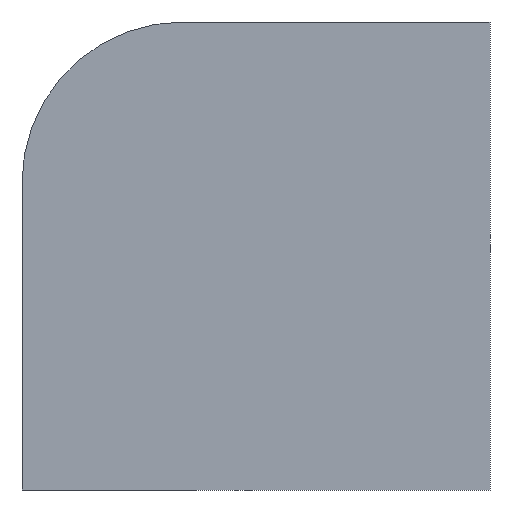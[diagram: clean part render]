
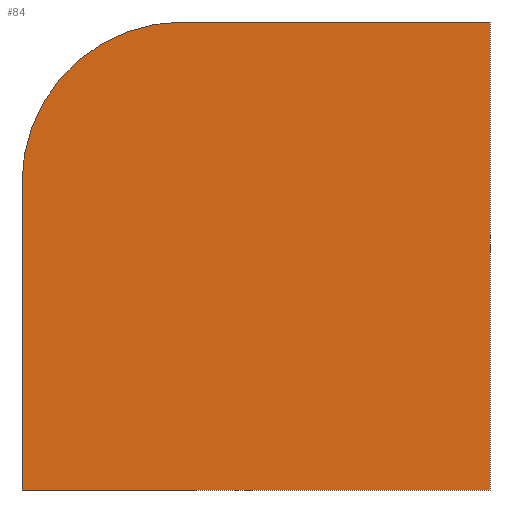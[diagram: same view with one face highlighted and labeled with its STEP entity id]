
A CAD part, front view. The second image highlights one B-rep face of the part: STEP entity #84.
In plain terms, the highlighted planar face has unit normal (0, -1, 0).
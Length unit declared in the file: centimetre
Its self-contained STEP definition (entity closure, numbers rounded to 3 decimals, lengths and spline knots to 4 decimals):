
#6 = ORIENTED_EDGE ( 'NONE', *, *, #404, .T. ) ;
#11 = CARTESIAN_POINT ( 'NONE',  ( 0., 0., 656.4885 ) ) ;
#18 = DIRECTION ( 'NONE',  ( 0., -1., 0. ) ) ;
#37 = CARTESIAN_POINT ( 'NONE',  ( 1000., 0., 1000. ) ) ;
#41 = DIRECTION ( 'NONE',  ( 0., 1., 0. ) ) ;
#44 = EDGE_CURVE ( 'NONE', #118, #259, #341, .T. ) ;
#49 = CARTESIAN_POINT ( 'NONE',  ( 0., 0., 0. ) ) ;
#50 = PLANE ( 'NONE',  #379 ) ;
#57 = VERTEX_POINT ( 'NONE', #78 ) ;
#61 = DIRECTION ( 'NONE',  ( 0., 0., -1. ) ) ;
#78 = CARTESIAN_POINT ( 'NONE',  ( 1000., 0., 0. ) ) ;
#83 = VECTOR ( 'NONE', #152, 100. ) ;
#84 = ADVANCED_FACE ( 'NONE', ( #150 ), #50, .F. ) ;
#90 = VERTEX_POINT ( 'NONE', #11 ) ;
#118 = VERTEX_POINT ( 'NONE', #430 ) ;
#137 = CARTESIAN_POINT ( 'NONE',  ( 0., 0., 1000. ) ) ;
#139 = EDGE_CURVE ( 'NONE', #259, #57, #218, .T. ) ;
#140 = VECTOR ( 'NONE', #231, 100. ) ;
#144 = VECTOR ( 'NONE', #275, 100. ) ;
#149 = LINE ( 'NONE', #366, #435 ) ;
#150 = FACE_OUTER_BOUND ( 'NONE', #251, .T. ) ;
#152 = DIRECTION ( 'NONE',  ( 0., 0., -1. ) ) ;
#157 = AXIS2_PLACEMENT_3D ( 'NONE', #315, #18, #283 ) ;
#158 = CARTESIAN_POINT ( 'NONE',  ( 1000., 0., 1000. ) ) ;
#161 = LINE ( 'NONE', #384, #140 ) ;
#175 = DIRECTION ( 'NONE',  ( 0., 0., 1. ) ) ;
#178 = CIRCLE ( 'NONE', #157, 343.5115 ) ;
#191 = ORIENTED_EDGE ( 'NONE', *, *, #44, .F. ) ;
#218 = LINE ( 'NONE', #158, #83 ) ;
#231 = DIRECTION ( 'NONE',  ( 1., 0., 0. ) ) ;
#241 = CARTESIAN_POINT ( 'NONE',  ( 0., 0., 1000. ) ) ;
#251 = EDGE_LOOP ( 'NONE', ( #191, #328, #6, #365, #324 ) ) ;
#259 = VERTEX_POINT ( 'NONE', #37 ) ;
#275 = DIRECTION ( 'NONE',  ( 1., 0., 0. ) ) ;
#283 = DIRECTION ( 'NONE',  ( 0., 0., 1. ) ) ;
#306 = VERTEX_POINT ( 'NONE', #49 ) ;
#315 = CARTESIAN_POINT ( 'NONE',  ( 343.5115, 0., 656.4885 ) ) ;
#324 = ORIENTED_EDGE ( 'NONE', *, *, #139, .F. ) ;
#328 = ORIENTED_EDGE ( 'NONE', *, *, #414, .T. ) ;
#341 = LINE ( 'NONE', #137, #144 ) ;
#365 = ORIENTED_EDGE ( 'NONE', *, *, #421, .T. ) ;
#366 = CARTESIAN_POINT ( 'NONE',  ( 0., 0., 1000. ) ) ;
#379 = AXIS2_PLACEMENT_3D ( 'NONE', #241, #41, #175 ) ;
#384 = CARTESIAN_POINT ( 'NONE',  ( 0., 0., 0. ) ) ;
#404 = EDGE_CURVE ( 'NONE', #90, #306, #149, .T. ) ;
#414 = EDGE_CURVE ( 'NONE', #118, #90, #178, .T. ) ;
#421 = EDGE_CURVE ( 'NONE', #306, #57, #161, .T. ) ;
#430 = CARTESIAN_POINT ( 'NONE',  ( 343.5115, 0., 1000. ) ) ;
#435 = VECTOR ( 'NONE', #61, 100. ) ;
